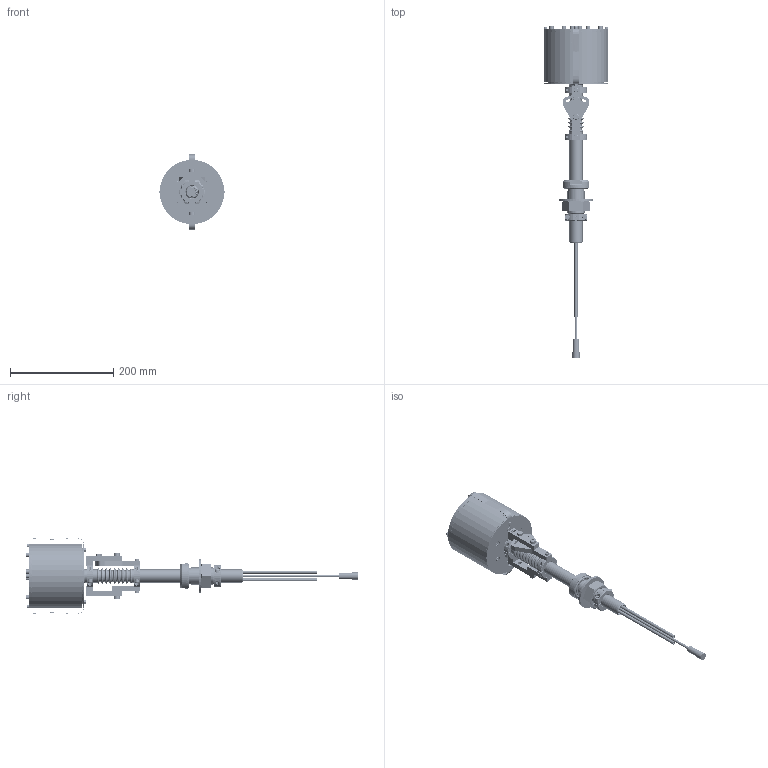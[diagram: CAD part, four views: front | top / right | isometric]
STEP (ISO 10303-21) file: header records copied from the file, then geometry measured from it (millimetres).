
FILE_DESCRIPTION((''),'2;1');
FILE_NAME('IMC75-A01_ASM','2017-07-17T',('Dave'),('Gencoa Limited'),'PRO/ENGINEER BY PARAMETRIC TECHNOLOGY CORPORATION, 2014310','PRO/ENGINEER BY PARAMETRIC TECHNOLOGY CORPORATION, 2014310','');
FILE_SCHEMA(('CONFIG_CONTROL_DESIGN'));
Products named in the file (64): IMC75-G01_ASM; NY-405-2; IMC75-WATER-1; 267-3616; IMC75-101; PASTERNAK_PE44080; 361-816_IMC75; 700-4646_075_IMC75; IMC75-G07_ASM; IMC75-C01_ASM; IMC75-G02_ASM; IMC75-T00_ASM; IMC75-C02_ASM; IMC75-C03_ASM; IMC75-004; 01000-24-313; 01000-24-314; 01000-24-315; 01000-24-A05_ASM; IMC75-024; IMC75-W02_ASM; H4C-15PB; C-TLT25-05; C-TLT25-15; C-TLT25-13; C-TLT25-12; C-TLT25-17; S0105020S2; S0105014S2; SHS6-10_MOD; C-TLT25-16; C-TLT25-SA12-SC_ASM; S0105016S2; IMC75-A12_ASM; IMC75-005; IMC75-G03_ASM; IMC75-120; IMC75-122; IMC75-112; W0905T1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
Assembly tree (113 placements, depth 6):
  IMC75-A01_ASM
    IMC75-C03_ASM
      IMC75-C02_ASM
        IMC75-G01_ASM
        IMC75-C01_ASM
          NY-405-2  x2
          IMC75-WATER-1  x2
          IMC75-G07_ASM
            267-3616  x2
            IMC75-101
            PASTERNAK_PE44080
            361-816_IMC75
            700-4646_075_IMC75
        IMC75-T00_ASM
          IMC75-G02_ASM
    IMC75-A12_ASM
      IMC75-W02_ASM
        IMC75-004
        01000-24-A05_ASM
          01000-24-313
          01000-24-314
          01000-24-315
        IMC75-024
      H4C-15PB  x2
      C-TLT25-SA12-SC_ASM
        C-TLT25-05  x2
        C-TLT25-15
        C-TLT25-13
        C-TLT25-12  x2
        C-TLT25-17  x2
        S0105020S2  x2
        S0105014S2  x2
        SHS6-10_MOD  x2
        C-TLT25-16
      S0105016S2  x6
    IMC75-C15_ASM
      IMC75-C14_ASM
        IMC75-G03_ASM
          IMC75-005
          H4C-15PB  x8
        IMC75-120
        IMC75-122
        IMC75-112  x2
        W0905T1  x4
        S0104016S2  x4
        W0504S2  x2
        S0004006B1  x2
      IMC75-013
      W0905T1  x6
      S0105020P1  x6
    IMC75-C16_ASM
      IMC75-121
      IMC75-123
      W0905T1  x3
      S0105012P1  x3
    C-WMF25_ASM
      01000-24-201
      W0333S2
      O5-33X37-47F7
      O3-53X24-99F7
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Bounding box: 128 x 644.3 x 147.29 mm (x, y, z)
Volume: 696879.8 mm3; surface area: 400959.6 mm2
Topology: 97 solids, 126 shells, 2407 faces, 5667 edges, 3581 vertices
Faces by surface type: cylinder 1128, plane 733, cone 264, torus 158, bspline 104, extrusion 20
Entity records: 69805 total; most frequent: CARTESIAN_POINT 35327, DIRECTION 7612, ORIENTED_EDGE 6442, EDGE_CURVE 3270, AXIS2_PLACEMENT_3D 3176, VERTEX_POINT 2081, EDGE_LOOP 1659, CIRCLE 1592
